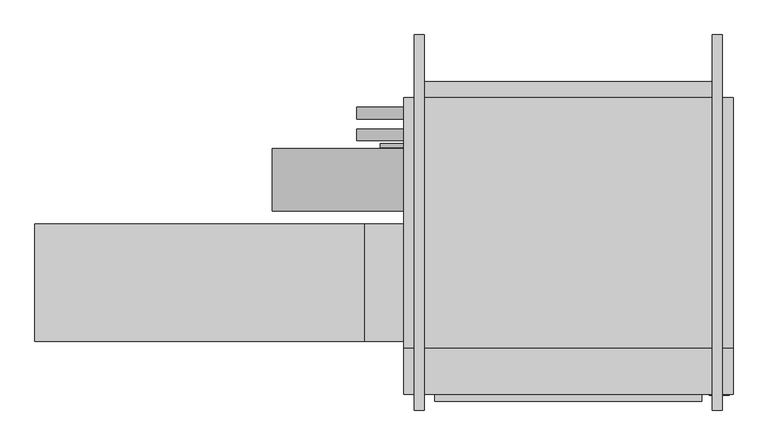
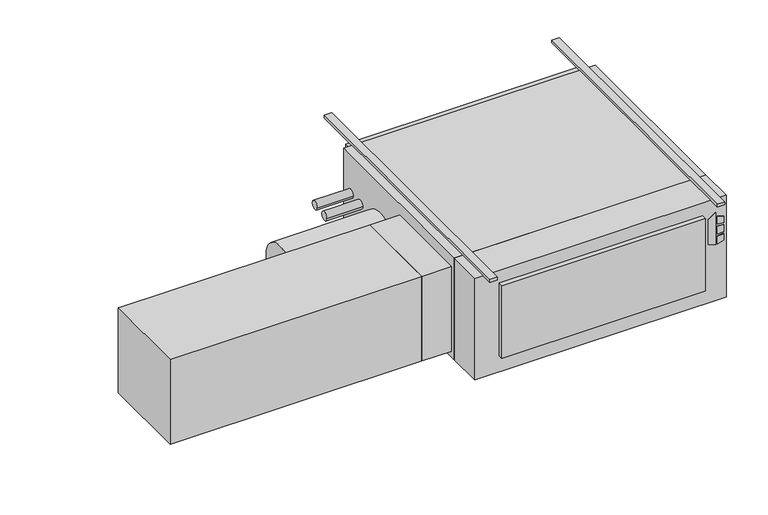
"""IFC4 building model written with IfcOpenShell, lengths in millimetres: proxy geometry."""

from ifc_helpers import new_model, si_unit, point, frame, frame_2d, origin, origin_with_axes, place, context, project, spatial, polyline, circle_curve, trimmed, segment, composite_curve, outline, extrude, source, transform, mapped, element, save


def mechanical_equipment_27d3f2bd(model_context):
    return source(origin(), model_context, "Body", "SweptSolid", [
        extrude(outline(polyline([(-193.2519297, 608.0868862), (-203.2, 640.2602728), (-61.0290756, 640.2602728), (-84.0510817, 608.0868862), (-193.2519297, 608.0868862)])), frame((0.0, -797.052, 0.0), z_axis=(0.0, 1.0, 0.0), x_axis=(0.0, 0.0, 1.0)), (0.0, 0.0, 1.0), 3.175),
        extrude(outline(polyline([(-114.2526443, 647.0186058), (-117.4550368, 673.1), (-88.2261958, 673.1), (-80.1617807, 647.0186058), (-114.2526443, 647.0186058)])), frame((0.0, -797.052, 0.0), z_axis=(0.0, 1.0, 0.0), x_axis=(0.0, 0.0, 1.0)), (0.0, 0.0, 1.0), 3.175),
        extrude(outline(polyline([(-166.1161712, 673.1), (-169.7816721, 647.0186058), (-203.2, 647.0186058), (-194.5657628, 673.1), (-166.1161712, 673.1)])), frame((0.0, -797.052, 0.0), z_axis=(0.0, 1.0, 0.0), x_axis=(0.0, 0.0, 1.0)), (0.0, 0.0, 1.0), 3.175),
        extrude(outline(polyline([(-126.8010097, 673.1), (-124.5191834, 647.0186058), (-160.4567319, 647.0186058), (-157.7154669, 673.1), (-126.8010097, 673.1)])), frame((0.0, -797.052, 0.0), z_axis=(0.0, 1.0, 0.0), x_axis=(0.0, 0.0, 1.0)), (0.0, 0.0, 1.0), 3.175),
        extrude(outline(polyline([(685.8, -793.877), (-381.0, -793.877), (-381.0, -644.525), (685.8, -644.525), (685.8, -793.877)])), frame((0.0, 0.0, -457.2), z_axis=(0.0, 0.0, 1.0), x_axis=(1.0, 0.0, 0.0)), (0.0, 0.0, 1.0), 457.2),
        extrude(outline(polyline([(584.2, -816.229), (-279.4, -816.229), (-279.4, -793.877), (584.2, -793.877), (584.2, -816.229)])), frame((0.0, 0.0, -381.0), z_axis=(0.0, 0.0, 1.0), x_axis=(1.0, 0.0, 0.0)), (0.0, 0.0, 1.0), 323.85),
        extrude(outline(polyline([(-1574.8, -622.3), (-1574.8, -241.3), (-508.0, -241.3), (-508.0, -622.3), (-1574.8, -622.3)])), frame((0.0, 0.0, -431.8), z_axis=(0.0, 0.0, 1.0), x_axis=(1.0, 0.0, 0.0)), (0.0, 0.0, 1.0), 381.0),
        extrude(outline(polyline([(-381.0, -241.3), (-381.0, -622.3), (-508.0, -622.3), (-508.0, -241.3), (-381.0, -241.3)])), frame((0.0, 0.0, -431.8), z_axis=(0.0, 0.0, 1.0), x_axis=(1.0, 0.0, 0.0)), (0.0, 0.0, 1.0), 381.0),
        extrude(outline(composite_curve([segment(trimmed(circle_curve(frame_2d((-98.4896516, -228.6360165)), 101.6), [point((-200.0896516, -228.6360165))], [point((3.1103484, -228.6360165))], False, "CARTESIAN"), True, "CONTINUOUS"), segment(trimmed(circle_curve(frame_2d((-98.4896516, -228.6360165)), 101.6), [point((3.1103484, -228.6360165))], [point((-200.0896516, -228.6360165))], False, "CARTESIAN"), True, "CONTINUOUS")], self_intersect=False)), frame((-806.45, 0.0, 0.0), z_axis=(1.0, 0.0, 0.0), x_axis=(0.0, 1.0, 0.0)), (0.0, 0.0, 1.0), 425.45),
        extrude(outline(composite_curve([segment(trimmed(circle_curve(frame_2d((47.625, -177.8)), 19.05), [point((28.575, -177.8))], [point((66.675, -177.8))], False, "CARTESIAN"), True, "CONTINUOUS"), segment(trimmed(circle_curve(frame_2d((47.625, -177.8)), 19.05), [point((66.675, -177.8))], [point((28.575, -177.8))], False, "CARTESIAN"), True, "CONTINUOUS")], self_intersect=False)), frame((-533.4, 0.0, 0.0), z_axis=(1.0, 0.0, 0.0), x_axis=(0.0, 1.0, 0.0)), (0.0, 0.0, 1.0), 152.4),
        extrude(outline(composite_curve([segment(trimmed(circle_curve(frame_2d((117.475, -171.45)), 19.05), [point((98.425, -171.45))], [point((136.525, -171.45))], False, "CARTESIAN"), True, "CONTINUOUS"), segment(trimmed(circle_curve(frame_2d((117.475, -171.45)), 19.05), [point((136.525, -171.45))], [point((98.425, -171.45))], False, "CARTESIAN"), True, "CONTINUOUS")], self_intersect=False)), frame((-533.4, 0.0, 0.0), z_axis=(1.0, 0.0, 0.0), x_axis=(0.0, 1.0, 0.0)), (0.0, 0.0, 1.0), 152.4),
        extrude(outline(composite_curve([segment(trimmed(circle_curve(frame_2d((12.7, -409.575)), 6.35), [point((6.35, -409.575))], [point((19.05, -409.575))], False, "CARTESIAN"), True, "CONTINUOUS"), segment(trimmed(circle_curve(frame_2d((12.7, -409.575)), 6.35), [point((19.05, -409.575))], [point((6.35, -409.575))], False, "CARTESIAN"), True, "CONTINUOUS")], self_intersect=False)), frame((-457.2, 0.0, 0.0), z_axis=(1.0, 0.0, 0.0), x_axis=(0.0, 1.0, 0.0)), (0.0, 0.0, 1.0), 76.2),
        extrude(outline(polyline([(685.8, 168.275), (685.8, -644.525), (-381.0, -644.525), (-381.0, 168.275), (685.8, 168.275)])), frame((0.0, 0.0, -457.2), z_axis=(0.0, 0.0, 1.0), x_axis=(1.0, 0.0, 0.0)), (0.0, 0.0, 1.0), 457.2),
        extrude(outline(polyline([(-342.9, 219.075), (647.7, 219.075), (647.7, 168.275), (-342.9, 168.275), (-342.9, 219.075)])), frame((0.0, 0.0, -381.0), z_axis=(0.0, 0.0, 1.0), x_axis=(1.0, 0.0, 0.0)), (0.0, 0.0, 1.0), 355.6),
        extrude(outline(polyline([(-314.325, 371.475), (-314.325, -844.677), (-346.075, -844.677), (-346.075, 371.475), (-314.325, 371.475)])), origin_with_axes(), (0.0, 0.0, 1.0), 12.7),
        extrude(outline(polyline([(650.875, 371.475), (650.875, -844.677), (619.125, -844.677), (619.125, 371.475), (650.875, 371.475)])), origin_with_axes(), (0.0, 0.0, 1.0), 12.7),
    ])


if __name__ == "__main__":
    model = new_model("IFC4")
    model_context = context("Model", 3, world=origin())
    ifc_project = project(units=[si_unit("LENGTHUNIT", "METRE", prefix="MILLI")], contexts=[model_context])
    site = spatial("IfcSite", under=ifc_project)
    building = spatial("IfcBuilding", under=site)
    placement = place(None, origin())
    mechanical_equipment_shape = mechanical_equipment_27d3f2bd(model_context)
    element("IfcBuildingElementProxy", 1, Name="High_Capacity_Horizontal_Cabinet_Fan_Coil_Unit_-_HTY_-_IEC_-_2 Pipe, Elec Heat_LH Side_2022 : Size 14 - 277v/60Hz/1Ph - 8/0 Coil 10.0kW - 8\" AirIn", ObjectType="High_Capacity_Horizontal_Cabinet_Fan_Coil_Unit_-_HTY_-_IEC_-_2 Pipe, Elec Heat_LH Side_2022 : Size 14 - 277v/60Hz/1Ph - 8/0 Coil 10.0kW - 8\" AirIn", at=placement, inside=building, context=model_context, shape_type="MappedRepresentation", body=[
        mapped(mechanical_equipment_shape, transform((0.0, 0.0, 0.0), x_axis=(1.0, 0.0, 0.0), y_axis=(0.0, 1.0, 0.0), z_axis=(0.0, 0.0, 1.0))),
    ])
    save(model, "model.ifc")
